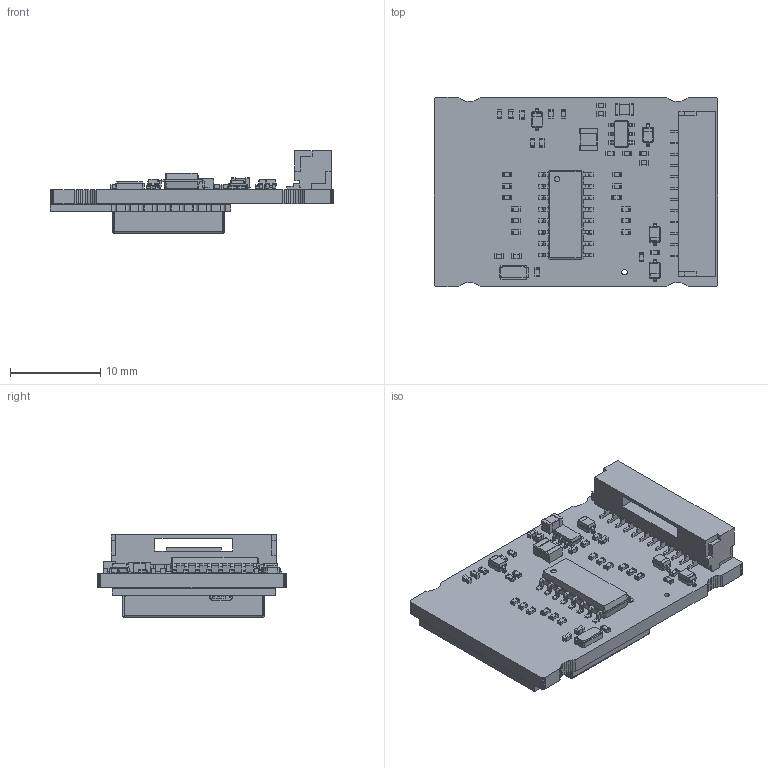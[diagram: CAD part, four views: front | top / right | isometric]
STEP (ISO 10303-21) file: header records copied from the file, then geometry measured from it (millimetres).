
FILE_DESCRIPTION(('KiCad electronic assembly'),'2;1');
FILE_NAME('uplc-digital.step','2024-02-26T10:29:27',('Pcbnew'),('Kicad') ,'Open CASCADE STEP processor 7.6','KiCad to STEP converter','Unknown' );
FILE_SCHEMA(('AUTOMOTIVE_DESIGN { 1 0 10303 214 1 1 1 1 }'));
Length unit declared in the file: millimetre
Products named in the file (22): uplc-digital 1; R_0402_1005Metric; SOLID; C_0402_1005Metric; D_SOD-323; JST_GH_SM12B-GHS-TB_1x12-1MP_P1.25mm_Horizontal; TSOT-23-6; SOIC-16_3.9x9.9mm_P1.27mm; L_1008_2520Metric; Crystal_SMD_3215-2Pin_3.2x1.5mm; C_0805_2012Metric; ESP32-C3-WROOM-02; COMPOUND; _autosave-uplc-digital PCB
Assembly tree (52 placements, depth 3):
  uplc-digital 1
    R_0402_1005Metric  x22
      SOLID
    C_0402_1005Metric  x8
      SOLID
    D_SOD-323  x4
      SOLID
    JST_GH_SM12B-GHS-TB_1x12-1MP_P1.25mm_Horizontal
      SOLID
    TSOT-23-6
      SOLID
    SOIC-16_3.9x9.9mm_P1.27mm
      SOLID
    L_1008_2520Metric
      SOLID
    Crystal_SMD_3215-2Pin_3.2x1.5mm
      SOLID
    C_0805_2012Metric
      SOLID
    ESP32-C3-WROOM-02
      COMPOUND
    _autosave-uplc-digital PCB
Bounding box: 31.4 x 21 x 9.12 mm (x, y, z)
Volume: 1700.1 mm3; surface area: 4389.4 mm2
Topology: 557 solids, 558 shells, 6125 faces, 13984 edges, 8974 vertices
Faces by surface type: plane 4022, cylinder 1759, bspline 228, sphere 112, torus 4
Full cylindrical faces by diameter (mm): 0.6 x3
Entity records: 315077 total; most frequent: CARTESIAN_POINT 65685, DIRECTION 45522, LINE 28063, VECTOR 28063, ORIENTED_EDGE 22972, PCURVE 22972, DEFINITIONAL_REPRESENTATION 22972, EDGE_CURVE 11486
